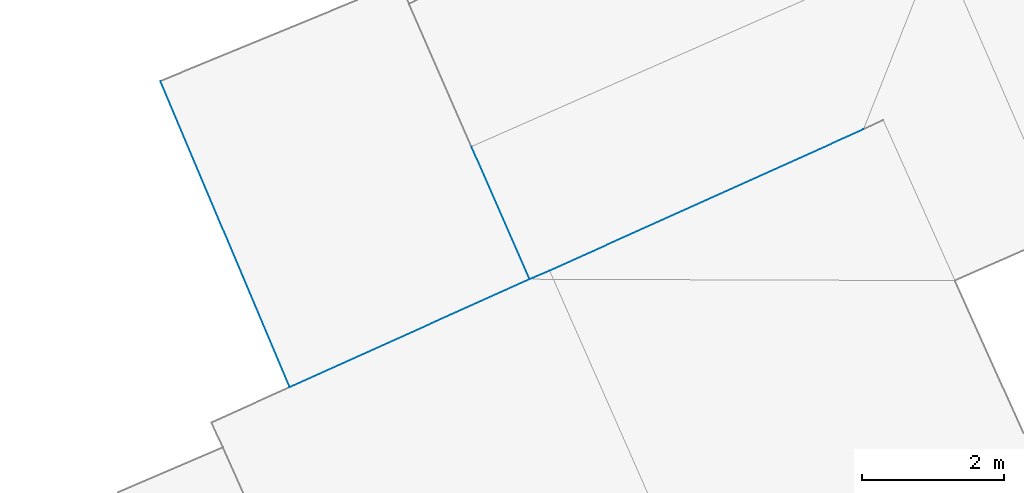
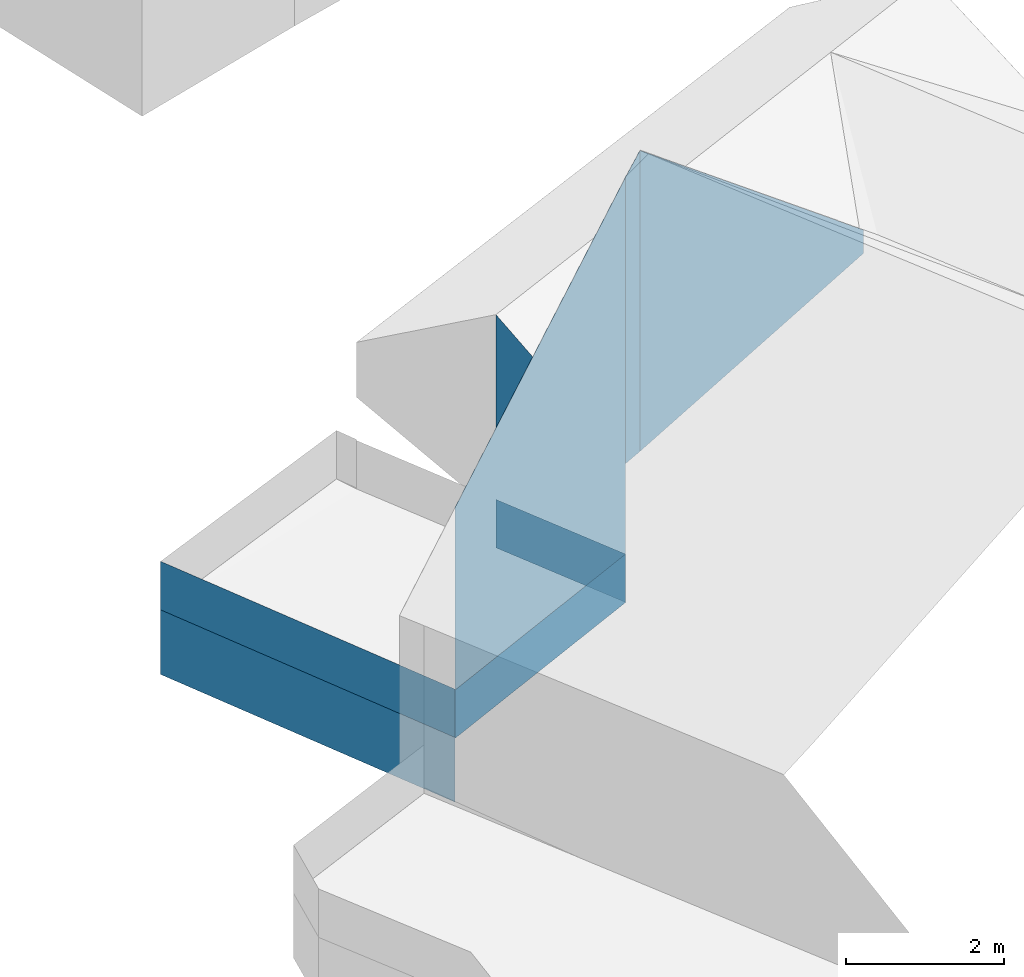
# Not in any storey, part 35 of 59: 11 walls.
"""IFC4 building model written with IfcOpenShell, lengths in metres."""

from ifc_helpers import new_model, entity, si_unit, converted_unit, frame, origin, place, context, subcontext, project, spatial, face_set, surface_model, element, save


model = new_model("IFC4")

# Units and contexts
model_context = context("Model", 3, precision=1e-05, world=origin())
body_context = subcontext(model_context, "Body", "Model", "MODEL_VIEW")
ifc_project = project(units=[converted_unit("PLANEANGLEUNIT", "DEGREE", entity("IfcRatioMeasure", 0.0174532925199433), si_unit("PLANEANGLEUNIT", "RADIAN"), dimensions=[0, 0, 0, 0, 0, 0, 0]), si_unit("AREAUNIT", "SQUARE_METRE"), si_unit("LENGTHUNIT", "METRE")], contexts=[model_context])

# Site, building
site_placement = place(None, origin())
site = spatial("IfcSite", under=ifc_project, at=site_placement, Name="_site")
building_1_placement = place(site_placement, origin())
building_1 = spatial("IfcBuilding", under=site, at=building_1_placement, Name="_building")

# Walls
wall_1_placement = place(building_1_placement, origin())
element("IfcWall", 1, at=wall_1_placement, inside=building_1, Name="Wall", PredefinedType="NOTDEFINED", context=body_context, shape_type="SurfaceModel", body=[
    surface_model("IfcFaceBasedSurfaceModel", [(233.41, 232.119, 223.3), (237.83, 234.109, 219.314), (237.83, 234.109, 218.95), (233.41, 232.119, 218.639)], [face_set([[[0, 1, 2, 3]]])]),
])
wall_2_placement = place(building_1_placement, origin())
element("IfcWall", 2, at=wall_2_placement, inside=building_1, Name="Wall", PredefinedType="NOTDEFINED", context=body_context, shape_type="SurfaceModel", body=[
    surface_model("IfcFaceBasedSurfaceModel", [(233.13, 232.0, 223.06), (233.41, 232.119, 223.3), (233.41, 232.119, 218.639), (233.13, 232.0, 218.62)], [face_set([[[0, 1, 2, 3]]])]),
])
wall_3_placement = place(building_1_placement, origin())
element("IfcWall", 3, at=wall_3_placement, inside=building_1, Name="Wall", PredefinedType="NOTDEFINED", context=body_context, shape_type="SurfaceModel", body=[
    surface_model("IfcFaceBasedSurfaceModel", [(229.751, 230.478, 220.043), (233.13, 232.0, 223.06), (233.13, 232.0, 216.875), (229.751, 230.478, 216.569)], [face_set([[[0, 1, 2, 3]]])]),
])
wall_4_placement = place(building_1_placement, origin())
element("IfcWall", 4, at=wall_4_placement, inside=building_1, Name="Wall", PredefinedType="NOTDEFINED", context=body_context, shape_type="SurfaceModel", body=[
    surface_model("IfcFaceBasedSurfaceModel", [(233.13, 232.0, 218.62), (232.31, 233.869, 220.08), (232.31, 233.869, 216.994), (233.13, 232.0, 216.875)], [face_set([[[0, 1, 2, 3]]])]),
])
for number, where, name in (
    (5, (0.0, 0.0, 0.0), "Wall"),
    (6, (0.0, 0.0, 0.0), "Wall"),
):
    element("IfcWall", number, at=place(building_1_placement, frame(where)), inside=building_1, Name=name, PredefinedType="NOTDEFINED", context=body_context, shape_type="SurfaceModel", body=[
        surface_model("IfcFaceBasedSurfaceModel", [(229.751, 230.478, 216.486), (227.93, 234.789, 216.486), (227.93, 234.789, 217.236), (229.751, 230.478, 217.236)], [face_set([[[0, 1, 2, 3]]])]),
    ])
for number, where, name in (
    (7, (0.0, 0.0, 0.0), "Wall"),
    (8, (0.0, 0.0, 0.0), "Wall"),
):
    element("IfcWall", number, at=place(building_1_placement, frame(where)), inside=building_1, Name=name, PredefinedType="NOTDEFINED", context=body_context, shape_type="SurfaceModel", body=[
        surface_model("IfcFaceBasedSurfaceModel", [(232.31, 233.869, 216.47), (233.13, 232.0, 216.47), (233.13, 232.0, 217.22), (232.31, 233.869, 217.22)], [face_set([[[0, 1, 2, 3]]])]),
    ])
wall_5_placement = place(building_1_placement, origin())
element("IfcWall", 9, at=wall_5_placement, inside=building_1, Name="Wall", PredefinedType="NOTDEFINED", context=body_context, shape_type="SurfaceModel", body=[
    surface_model("IfcFaceBasedSurfaceModel", [(229.751, 230.478, 216.486), (227.93, 234.789, 216.486), (227.93, 234.789, 215.486), (229.751, 230.478, 215.486)], [face_set([[[0, 1, 2, 3]]])]),
])

# Building
building_2_placement = place(site_placement, origin())
building_2 = spatial("IfcBuilding", under=site, at=building_2_placement, Name="_building")

# Walls
for number, where, name in (
    (10, (0.0, 0.0, 0.0), "Wall"),
    (11, (0.0, 0.0, 0.0), "Wall"),
):
    element("IfcWall", number, at=place(building_2_placement, frame(where)), inside=building_2, Name=name, PredefinedType="NOTDEFINED", context=body_context, shape_type="SurfaceModel", body=[
        surface_model("IfcFaceBasedSurfaceModel", [(233.13, 232.0, 216.47), (229.751, 230.478, 216.47), (229.751, 230.478, 217.22), (233.13, 232.0, 217.22)], [face_set([[[0, 1, 2, 3]]])]),
    ])

save(model, "model.ifc")
